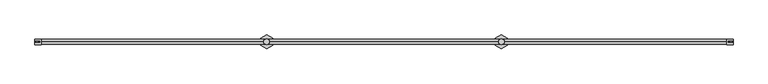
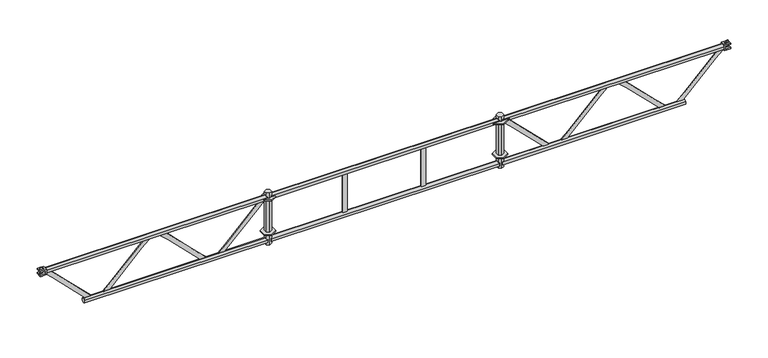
"""IFC4 building model written with IfcOpenShell, lengths in millimetres: proxy geometry, アルバトロスAK3スパンはりわく_軽 : アルバトロスAK3スパンはりわく_軽."""

from ifc_helpers import new_model, si_unit, point, frame, frame_2d, origin, place, context, project, spatial, polyline, circle_curve, trimmed, segment, composite_curve, outline, extrude, faceted_brep, source, transform, mapped, element, save


def generic_models_defd56ff(model_context):
    return source(origin(), model_context, "Body", "SolidModel", [
        extrude(outline(polyline([(1889.3993464, 26.5), (1889.3993464, -26.5), (1843.5, -53.0), (1797.6006536, -26.5), (1797.6006536, 26.5), (1843.5, 53.0), (1889.3993464, 26.5)])), frame((0.0, 0.0, -4.0), z_axis=(0.0, 0.0, 1.0), x_axis=(1.0, 0.0, 0.0)), (0.0, 0.0, 1.0), 8.0),
        extrude(outline(polyline([(1889.3993464, 26.5), (1889.3993464, -26.5), (1843.5, -53.0), (1797.6006536, -26.5), (1797.6006536, 26.5), (1843.5, 53.0), (1889.3993464, 26.5)])), frame((0.0, 0.0, -284.0), z_axis=(0.0, 0.0, 1.0), x_axis=(1.0, 0.0, 0.0)), (0.0, 0.0, 1.0), 8.0),
        extrude(outline(polyline([(3689.3993464, 26.5), (3689.3993464, -26.5), (3643.5, -53.0), (3597.6006536, -26.5), (3597.6006536, 26.5), (3643.5, 53.0), (3689.3993464, 26.5)])), frame((0.0, 0.0, -284.0), z_axis=(0.0, 0.0, 1.0), x_axis=(1.0, 0.0, 0.0)), (0.0, 0.0, 1.0), 8.0),
        extrude(outline(polyline([(3689.3993464, 26.5), (3689.3993464, -26.5), (3643.5, -53.0), (3597.6006536, -26.5), (3597.6006536, 26.5), (3643.5, 53.0), (3689.3993464, 26.5)])), frame((0.0, 0.0, -4.0), z_axis=(0.0, 0.0, 1.0), x_axis=(1.0, 0.0, 0.0)), (0.0, 0.0, 1.0), 8.0),
        faceted_brep([(3664.5444173, 12.15, 45.0), (3643.5, 24.3, 45.0), (3622.4555827, 12.15, 45.0), (3622.4555827, -12.15, 45.0), (3643.5, -24.3, 45.0), (3664.5444173, -12.15, 45.0), (3664.5444173, 12.15, -380.0), (3664.5444173, -12.15, -380.0), (3643.5, -24.3, -380.0), (3622.4555827, -12.15, -380.0), (3622.4555827, 12.15, -380.0), (3643.5, 24.3, -380.0), (3659.8, 14.8891906, 11.4465), (3664.5444173, 12.15, 17.3197921), (3664.5444173, -12.15, 17.3197921), (3659.8, -14.8891906, 11.4465), (3659.8, -14.8891906, -11.4465), (3659.8, 14.8891906, -11.4465), (3664.5444173, -12.15, -17.3197921), (3664.5444173, 12.15, -17.3197921), (3627.2, 14.8891906, -11.4465), (3622.4555827, 12.15, -17.3197921), (3622.4555827, -12.15, -17.3197921), (3627.2, -14.8891906, -11.4465), (3627.2, -14.8891906, 11.4465), (3627.2, 14.8891906, 11.4465), (3622.4555827, -12.15, 17.3197921), (3622.4555827, 12.15, 17.3197921), (3659.8, 14.8891906, -338.5535), (3664.5444173, 12.15, -332.6802079), (3664.5444173, -12.15, -332.6802079), (3659.8, -14.8891906, -338.5535), (3659.8, -14.8891906, -361.4465), (3659.8, 14.8891906, -361.4465), (3664.5444173, -12.15, -367.3197921), (3664.5444173, 12.15, -367.3197921), (3627.2, 14.8891906, -361.4465), (3622.4555827, 12.15, -367.3197921), (3622.4555827, -12.15, -367.3197921), (3627.2, -14.8891906, -361.4465), (3627.2, -14.8891906, -338.5535), (3627.2, 14.8891906, -338.5535), (3622.4555827, -12.15, -332.6802079), (3622.4555827, 12.15, -332.6802079)], [[[0, 1, 2, 3, 4, 5]], [[6, 7, 8, 9, 10, 11]], [[12, 13, 14, 15]], [[15, 16, 17, 12]], [[16, 18, 19, 17]], [[20, 21, 22, 23]], [[23, 24, 25, 20]], [[24, 26, 27, 25]], [[28, 29, 30, 31]], [[31, 32, 33, 28]], [[32, 34, 35, 33]], [[36, 37, 38, 39]], [[39, 40, 41, 36]], [[40, 42, 43, 41]], [[6, 35, 34, 7]], [[19, 18, 30, 29]], [[5, 14, 13, 0]], [[4, 8, 7, 34, 32, 31, 30, 18, 16, 15, 14, 5]], [[3, 26, 24, 23, 22, 42, 40, 39, 38, 9, 8, 4]], [[9, 38, 37, 10]], [[22, 21, 43, 42]], [[2, 27, 26, 3]], [[1, 11, 10, 37, 36, 41, 43, 21, 20, 25, 27, 2]], [[0, 13, 12, 17, 19, 29, 28, 33, 35, 6, 11, 1]]]),
        faceted_brep([(1864.5444173, 12.15, 45.0), (1843.5, 24.3, 45.0), (1822.4555827, 12.15, 45.0), (1822.4555827, -12.15, 45.0), (1843.5, -24.3, 45.0), (1864.5444173, -12.15, 45.0), (1864.5444173, 12.15, -380.0), (1864.5444173, -12.15, -380.0), (1843.5, -24.3, -380.0), (1822.4555827, -12.15, -380.0), (1822.4555827, 12.15, -380.0), (1843.5, 24.3, -380.0), (1859.8, 14.8891906, 11.4465), (1864.5444173, 12.15, 17.3197921), (1864.5444173, -12.15, 17.3197921), (1859.8, -14.8891906, 11.4465), (1859.8, -14.8891906, -11.4465), (1859.8, 14.8891906, -11.4465), (1864.5444173, -12.15, -17.3197921), (1864.5444173, 12.15, -17.3197921), (1827.2, 14.8891906, -11.4465), (1822.4555827, 12.15, -17.3197921), (1822.4555827, -12.15, -17.3197921), (1827.2, -14.8891906, -11.4465), (1827.2, -14.8891906, 11.4465), (1827.2, 14.8891906, 11.4465), (1822.4555827, -12.15, 17.3197921), (1822.4555827, 12.15, 17.3197921), (1859.8, 14.8891906, -338.5535), (1864.5444173, 12.15, -332.6802079), (1864.5444173, -12.15, -332.6802079), (1859.8, -14.8891906, -338.5535), (1859.8, -14.8891906, -361.4465), (1859.8, 14.8891906, -361.4465), (1864.5444173, -12.15, -367.3197921), (1864.5444173, 12.15, -367.3197921), (1827.2, 14.8891906, -361.4465), (1822.4555827, 12.15, -367.3197921), (1822.4555827, -12.15, -367.3197921), (1827.2, -14.8891906, -361.4465), (1827.2, -14.8891906, -338.5535), (1827.2, 14.8891906, -338.5535), (1822.4555827, -12.15, -332.6802079), (1822.4555827, 12.15, -332.6802079)], [[[0, 1, 2, 3, 4, 5]], [[6, 7, 8, 9, 10, 11]], [[12, 13, 14, 15]], [[15, 16, 17, 12]], [[16, 18, 19, 17]], [[20, 21, 22, 23]], [[23, 24, 25, 20]], [[24, 26, 27, 25]], [[28, 29, 30, 31]], [[31, 32, 33, 28]], [[32, 34, 35, 33]], [[36, 37, 38, 39]], [[39, 40, 41, 36]], [[40, 42, 43, 41]], [[6, 35, 34, 7]], [[19, 18, 30, 29]], [[5, 14, 13, 0]], [[4, 8, 7, 34, 32, 31, 30, 18, 16, 15, 14, 5]], [[3, 26, 24, 23, 22, 42, 40, 39, 38, 9, 8, 4]], [[9, 38, 37, 10]], [[22, 21, 43, 42]], [[2, 27, 26, 3]], [[1, 11, 10, 37, 36, 41, 43, 21, 20, 25, 27, 2]], [[0, 13, 12, 17, 19, 29, 28, 33, 35, 6, 11, 1]]]),
        faceted_brep([(64.5592, -21.5, -12.0), (64.5592, -21.5, -21.5), (115.0, -21.5, -21.5), (115.0, -21.5, 21.5), (64.5592, -21.5, 21.5), (64.5592, -21.5, 12.0), (106.7817611, -21.5, 12.0), (106.7817611, -21.5, -12.0), (64.5592, 21.5, -12.0), (106.7817611, 21.5, -12.0), (106.7817611, 21.5, 12.0), (64.5592, 21.5, 12.0), (64.5592, 21.5, 21.5), (115.0, 21.5, 21.5), (115.0, 21.5, -21.5), (64.5592, 21.5, -21.5), (93.3, 4.25, -12.0), (93.3, -4.25, -12.0), (69.0935462, -4.25, -12.0), (69.0935462, 4.25, -12.0), (69.0935462, 4.25, 12.0), (69.0935462, -4.25, 12.0), (100.3, -4.25, 12.0), (100.3, 4.25, 12.0), (100.3, 4.25, 21.5), (100.3, -4.25, 21.5), (69.0935462, -4.25, 21.5), (69.0935462, 4.25, 21.5), (69.0935462, 4.25, -21.5), (69.0935462, -4.25, -21.5), (93.3, -4.25, -21.5), (93.3, 4.25, -21.5)], [[[0, 1, 2, 3, 4, 5, 6, 7]], [[8, 9, 10, 11, 12, 13, 14, 15]], [[7, 9, 8, 0], [16, 17, 18, 19]], [[5, 11, 10, 6], [20, 21, 22, 23]], [[4, 12, 11, 5]], [[3, 13, 12, 4], [24, 25, 26, 27]], [[1, 15, 14, 2], [28, 29, 30, 31]], [[0, 8, 15, 1]], [[20, 23, 24, 27]], [[23, 22, 25, 24]], [[22, 21, 26, 25]], [[27, 26, 21, 20]], [[28, 31, 16, 19]], [[31, 30, 17, 16]], [[30, 29, 18, 17]], [[19, 18, 29, 28]], [[6, 10, 9, 7]], [[2, 14, 13, 3]]]),
        extrude(outline(polyline([(73.3, -4.0), (73.3, 4.0), (87.1907349, 4.0), (87.1907349, -4.0), (73.3, -4.0)])), frame((0.0, 0.0, -36.75), z_axis=(0.0, 0.0, 1.0), x_axis=(1.0, 0.0, 0.0)), (0.0, 0.0, 1.0), 73.5),
        faceted_brep([(5422.4408, 21.5, -12.0), (5422.4408, 21.5, -21.5), (5372.0, 21.5, -21.5), (5372.0, 21.5, 21.5), (5422.4408, 21.5, 21.5), (5422.4408, 21.5, 12.0), (5380.2182389, 21.5, 12.0), (5380.2182389, 21.5, -12.0), (5422.4408, -21.5, -12.0), (5380.2182389, -21.5, -12.0), (5380.2182389, -21.5, 12.0), (5422.4408, -21.5, 12.0), (5422.4408, -21.5, 21.5), (5372.0, -21.5, 21.5), (5372.0, -21.5, -21.5), (5422.4408, -21.5, -21.5), (5393.7, -4.25, -12.0), (5393.7, 4.25, -12.0), (5417.9064538, 4.25, -12.0), (5417.9064538, -4.25, -12.0), (5417.9064538, -4.25, 12.0), (5417.9064538, 4.25, 12.0), (5386.7, 4.25, 12.0), (5386.7, -4.25, 12.0), (5386.7, -4.25, 21.5), (5386.7, 4.25, 21.5), (5417.9064538, 4.25, 21.5), (5417.9064538, -4.25, 21.5), (5417.9064538, -4.25, -21.5), (5417.9064538, 4.25, -21.5), (5393.7, 4.25, -21.5), (5393.7, -4.25, -21.5)], [[[0, 1, 2, 3, 4, 5, 6, 7]], [[8, 9, 10, 11, 12, 13, 14, 15]], [[7, 9, 8, 0], [16, 17, 18, 19]], [[5, 11, 10, 6], [20, 21, 22, 23]], [[4, 12, 11, 5]], [[3, 13, 12, 4], [24, 25, 26, 27]], [[1, 15, 14, 2], [28, 29, 30, 31]], [[0, 8, 15, 1]], [[20, 23, 24, 27]], [[23, 22, 25, 24]], [[22, 21, 26, 25]], [[27, 26, 21, 20]], [[28, 31, 16, 19]], [[31, 30, 17, 16]], [[30, 29, 18, 17]], [[19, 18, 29, 28]], [[6, 10, 9, 7]], [[2, 14, 13, 3]]]),
        extrude(outline(polyline([(5413.7, 4.0), (5413.7, -4.0), (5399.8092651, -4.0), (5399.8092651, 4.0), (5413.7, 4.0)])), frame((0.0, 0.0, -36.75), z_axis=(0.0, 0.0, 1.0), x_axis=(1.0, 0.0, 0.0)), (0.0, 0.0, 1.0), 73.5),
        extrude(outline(polyline([(-18.4896424, -10.675), (-18.4896424, 10.675), (0.0, 21.35), (18.4896424, 10.675), (18.4896424, -10.675), (0.0, -21.35), (-18.4896424, -10.675)])), frame((115.0, 0.0, 0.0), z_axis=(1.0, 0.0, 0.0), x_axis=(0.0, 1.0, 0.0)), (0.0, 0.0, 1.0), 1728.5),
        extrude(outline(polyline([(-18.4896424, -360.675), (-18.4896424, -339.325), (0.0, -328.65), (18.4896424, -339.325), (18.4896424, -360.675), (0.0, -371.35), (-18.4896424, -360.675)])), frame((3630.8, 0.0, 0.0), z_axis=(1.0, 0.0, 0.0), x_axis=(0.0, 1.0, 0.0)), (0.0, 0.0, 1.0), 1444.1999316),
        extrude(outline(polyline([(-18.4896424, -360.675), (-18.4896424, -339.325), (0.0, -328.65), (18.4896424, -339.325), (18.4896424, -360.675), (0.0, -371.35), (-18.4896424, -360.675)])), frame((412.0000684, 0.0, 0.0), z_axis=(1.0, 0.0, 0.0), x_axis=(0.0, 1.0, 0.0)), (0.0, 0.0, 1.0), 1444.1999316),
        extrude(outline(composite_curve([segment(trimmed(circle_curve(frame_2d((-645.2601599, -400.1353082)), 804.3367), [point((-27.527903, 115.0))], [point((-76.508225, 168.6166268))], True, "CARTESIAN"), True, "CONTINUOUS"), segment(polyline([(-76.508225, 168.6166268), (-329.8916666, 422.0000684), (-349.9499805, 422.0000684), (-349.9499805, 467.0000701), (-326.8084936, 467.0000701), (-19.8084769, 160.0000535), (0.0, 160.0000535), (0.0, 115.0), (-27.527903, 115.0)]), True, "CONTINUOUS")], self_intersect=False)), frame((0.0, -2.5, 0.0), z_axis=(0.0, 1.0, 0.0), x_axis=(0.0, 0.0, 1.0)), (0.0, 0.0, 1.0), 5.0),
        faceted_brep([(5372.0, -18.4896424, -10.675), (5372.0, 0.0, -21.35), (5372.0, 18.4896424, -10.675), (5372.0, 18.4896424, 10.675), (5372.0, 0.0, 21.35), (5372.0, -18.4896424, 10.675), (3630.8, -18.4896424, -10.675), (3630.8, -18.4896424, 10.675), (3630.8, 0.0, 21.35), (3630.8, 18.4896424, 10.675), (3630.8, 18.4896424, -10.675), (3630.8, 0.0, -21.35), (3706.8, -18.4896424, 4.5), (3667.3, -18.4896424, 4.5), (3667.3, 18.4896424, 4.5), (3706.8, 18.4896424, 4.5), (3667.3, -18.4896424, -4.5), (3706.8, -18.4896424, -4.5), (3706.8, 18.4896424, -4.5), (3667.3, 18.4896424, -4.5)], [[[0, 1, 2, 3, 4, 5]], [[6, 7, 8, 9, 10, 11]], [[12, 13, 14, 15]], [[16, 17, 18, 19]], [[19, 14, 13, 16]], [[5, 7, 6, 0], [12, 17, 16, 13]], [[4, 8, 7, 5]], [[3, 9, 8, 4]], [[2, 10, 9, 3], [14, 19, 18, 15]], [[1, 11, 10, 2]], [[0, 6, 11, 1]], [[15, 18, 17, 12]]]),
        extrude(outline(composite_curve([segment(polyline([(-27.5279088, 917.3000493), (-5.8e-06, 917.3000493), (-5.8e-06, 872.2999958), (-19.8083913, 872.2999958), (-273.1917712, 618.9166159)]), True, "CONTINUOUS"), segment(trimmed(circle_curve(frame_2d((295.5601637, 50.164681)), 804.3367), [point((-273.1917712, 618.9166159))], [point((-322.1721015, 565.2999792))], True, "CARTESIAN"), True, "CONTINUOUS"), segment(polyline([(-322.1721015, 565.2999792), (-349.9499863, 565.2999792), (-349.9499863, 610.299981), (-329.8916724, 610.299981), (-76.5082308, 863.6834226)]), True, "CONTINUOUS"), segment(trimmed(circle_curve(frame_2d((-645.2601657, 1432.4353575)), 804.3367), [point((-76.5082308, 863.6834226))], [point((-27.5279088, 917.3000493))], True, "CARTESIAN"), True, "CONTINUOUS")], self_intersect=False)), frame((0.0, -2.5, 0.0), z_axis=(0.0, 1.0, 0.0), x_axis=(0.0, 0.0, 1.0)), (0.0, 0.0, 1.0), 5.0),
        extrude(outline(composite_curve([segment(trimmed(circle_curve(frame_2d((-645.2601599, 493.0645989)), 804.3367), [point((-27.527903, 1008.1999071))], [point((-76.508225, 1061.8165339))], True, "CARTESIAN"), True, "CONTINUOUS"), segment(polyline([(-76.508225, 1061.8165339), (-329.8916666, 1315.1999755), (-349.9499805, 1315.1999755), (-349.9499805, 1360.1999772), (-322.1720957, 1360.1999772)]), True, "CONTINUOUS"), segment(trimmed(circle_curve(frame_2d((295.5601695, 1875.3352755)), 804.3367), [point((-322.1720957, 1360.1999772))], [point((-273.1917655, 1306.5833405))], True, "CARTESIAN"), True, "CONTINUOUS"), segment(polyline([(-273.1917655, 1306.5833405), (-19.8083855, 1053.1999606), (0.0, 1053.1999606), (0.0, 1008.1999071), (-27.527903, 1008.1999071)]), True, "CONTINUOUS")], self_intersect=False)), frame((0.0, -2.5, 0.0), z_axis=(0.0, 1.0, 0.0), x_axis=(0.0, 0.0, 1.0)), (0.0, 0.0, 1.0), 5.0),
        extrude(outline(composite_curve([segment(polyline([(-27.5279088, 1810.4999564), (-5.8e-06, 1810.4999564), (-5.8e-06, 1765.4999029), (-19.8083913, 1765.4999029), (-273.1917712, 1512.116523)]), True, "CONTINUOUS"), segment(trimmed(circle_curve(frame_2d((295.5601637, 943.3645881)), 804.3367), [point((-273.1917712, 1512.116523))], [point((-322.1721015, 1458.4998863))], True, "CARTESIAN"), True, "CONTINUOUS"), segment(polyline([(-322.1721015, 1458.4998863), (-349.9499863, 1458.4998863), (-349.9499863, 1503.4998881), (-329.8916724, 1503.4998881), (-76.5082308, 1756.8833297)]), True, "CONTINUOUS"), segment(trimmed(circle_curve(frame_2d((-645.2601657, 2325.6352646)), 804.3367), [point((-76.5082308, 1756.8833297))], [point((-27.5279088, 1810.4999564))], True, "CARTESIAN"), True, "CONTINUOUS")], self_intersect=False)), frame((0.0, -2.5, 0.0), z_axis=(0.0, 1.0, 0.0), x_axis=(0.0, 0.0, 1.0)), (0.0, 0.0, 1.0), 5.0),
        extrude(outline(composite_curve([segment(polyline([(-27.5279088, 4472.0), (-5.8e-06, 4472.0), (-5.8e-06, 4426.9999465), (-19.8083913, 4426.9999465), (-273.1917712, 4173.6165666)]), True, "CONTINUOUS"), segment(trimmed(circle_curve(frame_2d((295.5601637, 3604.8646316)), 804.3367), [point((-273.1917712, 4173.6165666))], [point((-322.1721015, 4119.9999299))], True, "CARTESIAN"), True, "CONTINUOUS"), segment(polyline([(-322.1721015, 4119.9999299), (-349.9499863, 4119.9999299), (-349.9499863, 4164.9999316), (-329.8916724, 4164.9999316), (-76.5082308, 4418.3833732)]), True, "CONTINUOUS"), segment(trimmed(circle_curve(frame_2d((-645.2601657, 4987.1353082)), 804.3367), [point((-76.5082308, 4418.3833732))], [point((-27.5279088, 4472.0))], True, "CARTESIAN"), True, "CONTINUOUS")], self_intersect=False)), frame((0.0, -2.5, 0.0), z_axis=(0.0, 1.0, 0.0), x_axis=(0.0, 0.0, 1.0)), (0.0, 0.0, 1.0), 5.0),
        extrude(outline(composite_curve([segment(trimmed(circle_curve(frame_2d((-645.2601599, 4054.5646425)), 804.3367), [point((-27.527903, 4569.6999507))], [point((-76.508225, 4623.3165774))], True, "CARTESIAN"), True, "CONTINUOUS"), segment(polyline([(-76.508225, 4623.3165774), (-329.8916666, 4876.700019), (-349.9499805, 4876.700019), (-349.9499805, 4921.7000208), (-322.1720957, 4921.7000208)]), True, "CONTINUOUS"), segment(trimmed(circle_curve(frame_2d((295.5601695, 5436.835319)), 804.3367), [point((-322.1720957, 4921.7000208))], [point((-273.1917655, 4868.0833841))], True, "CARTESIAN"), True, "CONTINUOUS"), segment(polyline([(-273.1917655, 4868.0833841), (-19.8083855, 4614.7000042), (0.0, 4614.7000042), (0.0, 4569.6999507), (-27.527903, 4569.6999507)]), True, "CONTINUOUS")], self_intersect=False)), frame((0.0, -2.5, 0.0), z_axis=(0.0, 1.0, 0.0), x_axis=(0.0, 0.0, 1.0)), (0.0, 0.0, 1.0), 5.0),
        extrude(outline(composite_curve([segment(polyline([(-27.5279088, 5372.0), (-5.8e-06, 5372.0), (-5.8e-06, 5326.9999465), (-19.8083913, 5326.9999465), (-273.1917712, 5073.6165666)]), True, "CONTINUOUS"), segment(trimmed(circle_curve(frame_2d((295.5601637, 4504.8646316)), 804.3367), [point((-273.1917712, 5073.6165666))], [point((-322.1721015, 5019.9999299))], True, "CARTESIAN"), True, "CONTINUOUS"), segment(polyline([(-322.1721015, 5019.9999299), (-349.9499863, 5019.9999299), (-349.9499863, 5064.9999316), (-329.8916724, 5064.9999316), (-76.5082308, 5318.3833732)]), True, "CONTINUOUS"), segment(trimmed(circle_curve(frame_2d((-645.2601657, 5887.1353082)), 804.3367), [point((-76.5082308, 5318.3833732))], [point((-27.5279088, 5372.0))], True, "CARTESIAN"), True, "CONTINUOUS")], self_intersect=False)), frame((0.0, -2.5, 0.0), z_axis=(0.0, 1.0, 0.0), x_axis=(0.0, 0.0, 1.0)), (0.0, 0.0, 1.0), 5.0),
        extrude(outline(polyline([(-18.4896424, -360.675), (-18.4896424, -339.325), (0.0, -328.65), (18.4896424, -339.325), (18.4896424, -360.675), (0.0, -371.35), (-18.4896424, -360.675)])), frame((1845.3, 0.0, 0.0), z_axis=(1.0, 0.0, 0.0), x_axis=(0.0, 1.0, 0.0)), (0.0, 0.0, 1.0), 1796.4),
        faceted_brep([(3641.6999999, -18.4896424, -10.675), (3641.6999999, 0.0, -21.35), (3641.6999999, 18.4896424, -10.675), (3641.6999999, 18.4896424, 10.675), (3641.6999999, 0.0, 21.35), (3641.6999999, -18.4896424, 10.675), (1845.3, -18.4896424, -10.675), (1845.3, -18.4896424, 10.675), (1845.3, 0.0, 21.35), (1845.3, 18.4896424, 10.675), (1845.3, 18.4896424, -10.675), (1845.3, 0.0, -21.35), (3619.7, -18.4896424, 4.5), (3580.2, -18.4896424, 4.5), (3580.2, 18.4896424, 4.5), (3619.7, 18.4896424, 4.5), (3580.2, -18.4896424, -4.5), (3619.7, -18.4896424, -4.5), (3619.7, 18.4896424, -4.5), (3580.2, 18.4896424, -4.5)], [[[0, 1, 2, 3, 4, 5]], [[6, 7, 8, 9, 10, 11]], [[12, 13, 14, 15]], [[16, 17, 18, 19]], [[15, 18, 17, 12]], [[5, 7, 6, 0], [12, 17, 16, 13]], [[4, 8, 7, 5]], [[3, 9, 8, 4]], [[2, 10, 9, 3], [14, 19, 18, 15]], [[1, 11, 10, 2]], [[0, 6, 11, 1]], [[19, 14, 13, 16]]]),
        extrude(outline(polyline([(2456.0, 5.0), (2456.0, -5.0), (2422.0, -5.0), (2422.0, 5.0), (2456.0, 5.0)])), frame((0.0, 0.0, -350.0), z_axis=(0.0, 0.0, 1.0), x_axis=(1.0, 0.0, 0.0)), (0.0, 0.0, 1.0), 350.0),
        extrude(outline(polyline([(3065.0, 5.0), (3065.0, -5.0), (3031.0, -5.0), (3031.0, 5.0), (3065.0, 5.0)])), frame((0.0, 0.0, -360.6301345), z_axis=(0.0, 0.0, 1.0), x_axis=(1.0, 0.0, 0.0)), (0.0, 0.0, 1.0), 350.0),
        extrude(outline(composite_curve([segment(trimmed(circle_curve(frame_2d((-645.2601599, 3154.5646425)), 804.3367), [point((-27.527903, 3669.6999507))], [point((-76.508225, 3723.3165774))], True, "CARTESIAN"), True, "CONTINUOUS"), segment(polyline([(-76.508225, 3723.3165774), (-329.8916666, 3976.700019), (-349.9499805, 3976.700019), (-349.9499805, 4021.7000208), (-322.1720957, 4021.7000208)]), True, "CONTINUOUS"), segment(trimmed(circle_curve(frame_2d((295.5601695, 4536.835319)), 804.3367), [point((-322.1720957, 4021.7000208))], [point((-273.1917655, 3968.0833841))], True, "CARTESIAN"), True, "CONTINUOUS"), segment(polyline([(-273.1917655, 3968.0833841), (-19.8083855, 3714.7000042), (0.0, 3714.7000042), (0.0, 3669.6999507), (-27.527903, 3669.6999507)]), True, "CONTINUOUS")], self_intersect=False)), frame((0.0, -2.5, 0.0), z_axis=(0.0, 1.0, 0.0), x_axis=(0.0, 0.0, 1.0)), (0.0, 0.0, 1.0), 5.0),
    ])


if __name__ == "__main__":
    model = new_model("IFC4")
    model_context = context("Model", 3, world=origin())
    ifc_project = project(units=[si_unit("LENGTHUNIT", "METRE", prefix="MILLI")], contexts=[model_context])
    site = spatial("IfcSite", under=ifc_project)
    building = spatial("IfcBuilding", under=site)
    placement = place(None, origin())
    generic_models_shape = generic_models_defd56ff(model_context)
    element("IfcBuildingElementProxy", 1, Name="アルバトロスAK3スパンはりわく_軽 : アルバトロスAK3スパンはりわく_軽", ObjectType="アルバトロスAK3スパンはりわく_軽 : アルバトロスAK3スパンはりわく_軽", at=placement, inside=building, context=model_context, shape_type="MappedRepresentation", body=[
        mapped(generic_models_shape, transform((0.0, 0.0, 0.0), x_axis=(1.0, 0.0, 0.0), y_axis=(0.0, 1.0, 0.0), z_axis=(0.0, 0.0, 1.0))),
    ])
    save(model, "model.ifc")
